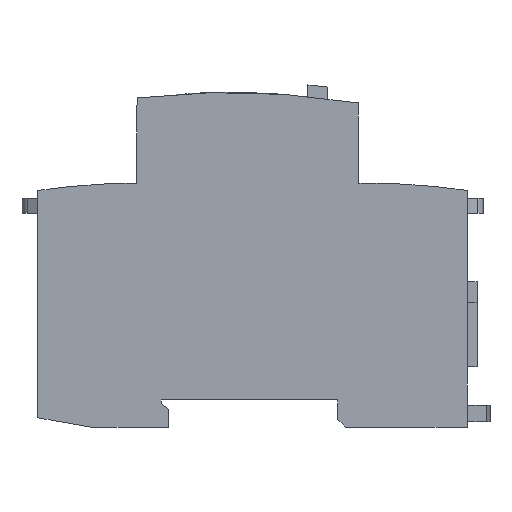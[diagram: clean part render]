
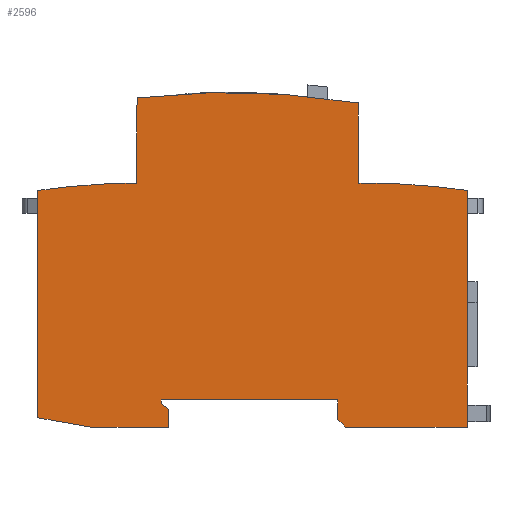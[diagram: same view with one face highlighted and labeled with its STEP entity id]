
A CAD part, left-side view. The second image highlights one B-rep face of the part: STEP entity #2596.
In plain terms, the highlighted planar face has unit normal (-1, 0, 0).
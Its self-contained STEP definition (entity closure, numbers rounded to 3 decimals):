
#222=DIRECTION('',(0.,0.,1.));
#223=VECTOR('',#222,45.94);
#224=CARTESIAN_POINT('',(-45.,43.4,-31.938));
#225=LINE('',#224,#223);
#226=CARTESIAN_POINT('',(-45.,23.5,-119.629));
#227=DIRECTION('',(1.,0.,0.));
#228=DIRECTION('',(0.,0.147,0.989));
#229=AXIS2_PLACEMENT_3D('',#226,#227,#228);
#231=DIRECTION('',(0.,-0.009,1.));
#232=VECTOR('',#231,17.255);
#233=CARTESIAN_POINT('',(-45.,23.492,15.475));
#234=LINE('',#233,#232);
#235=CARTESIAN_POINT('',(-45.,4.651,-126.175));
#236=DIRECTION('',(1.,0.,0.));
#237=DIRECTION('',(0.,0.117,0.993));
#238=AXIS2_PLACEMENT_3D('',#235,#236,#237);
#240=DIRECTION('',(0.,-0.009,-1.));
#241=VECTOR('',#240,16.223);
#242=CARTESIAN_POINT('',(-45.,-21.351,31.698));
#243=LINE('',#242,#241);
#244=DIRECTION('',(0.,-1.,0.));
#245=VECTOR('',#244,2.007);
#246=CARTESIAN_POINT('',(-45.,-21.492,15.475));
#247=LINE('',#246,#245);
#248=CARTESIAN_POINT('',(-45.,-23.499,-119.629));
#249=DIRECTION('',(1.,0.,0.));
#250=DIRECTION('',(0.,0.,1.));
#251=AXIS2_PLACEMENT_3D('',#248,#249,#250);
#253=DIRECTION('',(0.,0.,-1.));
#254=VECTOR('',#253,47.826);
#255=CARTESIAN_POINT('',(-45.,-43.4,14.002));
#256=LINE('',#255,#254);
#257=DIRECTION('',(0.,1.,0.));
#258=VECTOR('',#257,24.65);
#259=CARTESIAN_POINT('',(-45.,-43.4,-33.825));
#260=LINE('',#259,#258);
#261=DIRECTION('',(0.,0.711,0.704));
#262=VECTOR('',#261,2.132);
#263=CARTESIAN_POINT('',(-45.,-18.75,-33.825));
#264=LINE('',#263,#262);
#265=DIRECTION('',(0.,0.009,1.));
#266=VECTOR('',#265,4.);
#267=CARTESIAN_POINT('',(-45.,-17.235,-32.325));
#268=LINE('',#267,#266);
#269=DIRECTION('',(0.,1.,0.));
#270=VECTOR('',#269,35.7);
#271=CARTESIAN_POINT('',(-45.,-17.2,-28.325));
#272=LINE('',#271,#270);
#273=DIRECTION('',(0.,0.,-1.));
#274=VECTOR('',#273,0.8);
#275=CARTESIAN_POINT('',(-45.,18.5,-28.325));
#276=LINE('',#275,#274);
#277=DIRECTION('',(0.,-0.819,-0.574));
#278=VECTOR('',#277,1.831);
#279=CARTESIAN_POINT('',(-45.,18.5,-29.124));
#280=LINE('',#279,#278);
#281=DIRECTION('',(0.,0.,-1.));
#282=VECTOR('',#281,3.65);
#283=CARTESIAN_POINT('',(-45.,17.,-30.175));
#284=LINE('',#283,#282);
#285=DIRECTION('',(0.,1.,0.));
#286=VECTOR('',#285,15.7);
#287=CARTESIAN_POINT('',(-45.,17.,-33.825));
#288=LINE('',#287,#286);
#289=DIRECTION('',(0.,0.985,0.174));
#290=VECTOR('',#289,10.865);
#291=CARTESIAN_POINT('',(-45.,32.7,-33.825));
#292=LINE('',#291,#290);
#1712=CARTESIAN_POINT('',(-45.,43.4,-31.938));
#1713=CARTESIAN_POINT('',(-45.,43.4,14.002));
#1714=VERTEX_POINT('',#1712);
#1715=VERTEX_POINT('',#1713);
#1716=CARTESIAN_POINT('',(-45.,23.492,15.475));
#1717=VERTEX_POINT('',#1716);
#1718=CARTESIAN_POINT('',(-45.,23.342,32.729));
#1719=VERTEX_POINT('',#1718);
#1720=CARTESIAN_POINT('',(-45.,-21.351,31.698));
#1721=VERTEX_POINT('',#1720);
#1722=CARTESIAN_POINT('',(-45.,-21.492,15.475));
#1723=VERTEX_POINT('',#1722);
#1724=CARTESIAN_POINT('',(-45.,-23.499,15.475));
#1725=CARTESIAN_POINT('',(-45.,-43.4,14.002));
#1726=VERTEX_POINT('',#1724);
#1727=VERTEX_POINT('',#1725);
#1728=CARTESIAN_POINT('',(-45.,-43.4,-33.825));
#1729=VERTEX_POINT('',#1728);
#1730=CARTESIAN_POINT('',(-45.,-18.75,-33.825));
#1731=VERTEX_POINT('',#1730);
#1732=CARTESIAN_POINT('',(-45.,-17.235,-32.325));
#1733=VERTEX_POINT('',#1732);
#1734=CARTESIAN_POINT('',(-45.,-17.2,-28.325));
#1735=VERTEX_POINT('',#1734);
#1736=CARTESIAN_POINT('',(-45.,18.5,-28.325));
#1737=VERTEX_POINT('',#1736);
#1738=CARTESIAN_POINT('',(-45.,18.5,-29.124));
#1739=VERTEX_POINT('',#1738);
#1740=CARTESIAN_POINT('',(-45.,17.,-30.175));
#1741=VERTEX_POINT('',#1740);
#1742=CARTESIAN_POINT('',(-45.,17.,-33.825));
#1743=VERTEX_POINT('',#1742);
#1744=CARTESIAN_POINT('',(-45.,32.7,-33.825));
#1745=VERTEX_POINT('',#1744);
#2556=CARTESIAN_POINT('',(-45.,0.,0.));
#2557=DIRECTION('',(1.,0.,0.));
#2558=DIRECTION('',(0.,0.,-1.));
#2559=AXIS2_PLACEMENT_3D('',#2556,#2557,#2558);
#2560=PLANE('',#2559);
#2562=ORIENTED_EDGE('',*,*,#2561,.T.);
#2564=ORIENTED_EDGE('',*,*,#2563,.T.);
#2566=ORIENTED_EDGE('',*,*,#2565,.T.);
#2568=ORIENTED_EDGE('',*,*,#2567,.T.);
#2570=ORIENTED_EDGE('',*,*,#2569,.T.);
#2572=ORIENTED_EDGE('',*,*,#2571,.T.);
#2574=ORIENTED_EDGE('',*,*,#2573,.T.);
#2575=ORIENTED_EDGE('',*,*,#2459,.T.);
#2577=ORIENTED_EDGE('',*,*,#2576,.T.);
#2579=ORIENTED_EDGE('',*,*,#2578,.T.);
#2581=ORIENTED_EDGE('',*,*,#2580,.T.);
#2583=ORIENTED_EDGE('',*,*,#2582,.T.);
#2585=ORIENTED_EDGE('',*,*,#2584,.T.);
#2587=ORIENTED_EDGE('',*,*,#2586,.T.);
#2589=ORIENTED_EDGE('',*,*,#2588,.T.);
#2591=ORIENTED_EDGE('',*,*,#2590,.T.);
#2593=ORIENTED_EDGE('',*,*,#2592,.T.);
#2594=EDGE_LOOP('',(#2562,#2564,#2566,#2568,#2570,#2572,#2574,#2575,#2577,#2579,
#2581,#2583,#2585,#2587,#2589,#2591,#2593));
#2595=FACE_OUTER_BOUND('',#2594,.F.);
#2596=ADVANCED_FACE('',(#2595),#2560,.F.);
#230=CIRCLE('',#229,135.104);
#239=CIRCLE('',#238,160.);
#252=CIRCLE('',#251,135.104);
#2459=EDGE_CURVE('',#1727,#1729,#256,.T.);
#2561=EDGE_CURVE('',#1714,#1715,#225,.T.);
#2563=EDGE_CURVE('',#1715,#1717,#230,.T.);
#2565=EDGE_CURVE('',#1717,#1719,#234,.T.);
#2567=EDGE_CURVE('',#1719,#1721,#239,.T.);
#2569=EDGE_CURVE('',#1721,#1723,#243,.T.);
#2571=EDGE_CURVE('',#1723,#1726,#247,.T.);
#2573=EDGE_CURVE('',#1726,#1727,#252,.T.);
#2576=EDGE_CURVE('',#1729,#1731,#260,.T.);
#2578=EDGE_CURVE('',#1731,#1733,#264,.T.);
#2580=EDGE_CURVE('',#1733,#1735,#268,.T.);
#2582=EDGE_CURVE('',#1735,#1737,#272,.T.);
#2584=EDGE_CURVE('',#1737,#1739,#276,.T.);
#2586=EDGE_CURVE('',#1739,#1741,#280,.T.);
#2588=EDGE_CURVE('',#1741,#1743,#284,.T.);
#2590=EDGE_CURVE('',#1743,#1745,#288,.T.);
#2592=EDGE_CURVE('',#1745,#1714,#292,.T.);
